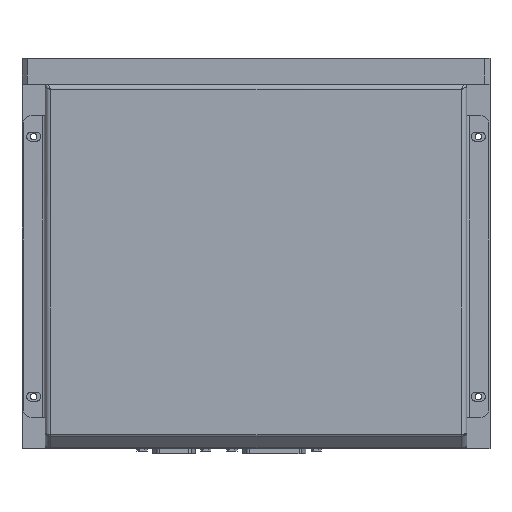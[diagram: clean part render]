
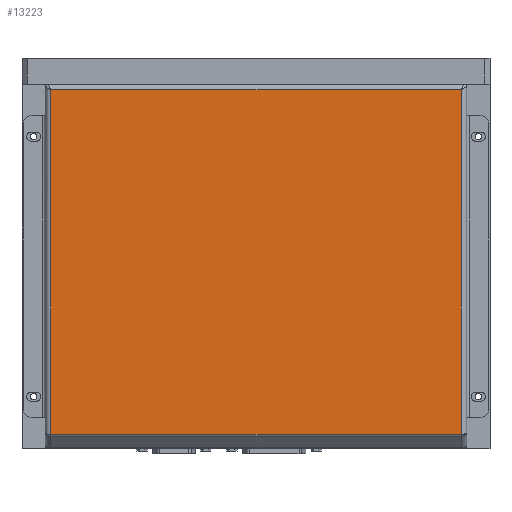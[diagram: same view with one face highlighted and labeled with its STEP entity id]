
A CAD part, top view. The second image highlights one B-rep face of the part: STEP entity #13223.
In plain terms, the highlighted planar face has unit normal (0, 0, 1) as drawn and (0, 1, 0) by its records, which use the part's own axes.
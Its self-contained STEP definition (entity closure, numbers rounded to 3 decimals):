
#437 = LINE ( 'NONE', #36628, #6443 ) ;
#1823 = VERTEX_POINT ( 'NONE', #7459 ) ;
#3011 = VECTOR ( 'NONE', #49652, 1000. ) ;
#4052 = LINE ( 'NONE', #50740, #53688 ) ;
#4810 = ORIENTED_EDGE ( 'NONE', *, *, #46773, .F. ) ;
#5558 = AXIS2_PLACEMENT_3D ( 'NONE', #59031, #35461, #15971 ) ;
#6134 = CARTESIAN_POINT ( 'NONE',  ( 79., 0., 0. ) ) ;
#6443 = VECTOR ( 'NONE', #7826, 1000. ) ;
#7459 = CARTESIAN_POINT ( 'NONE',  ( -79., 0., 64.586 ) ) ;
#7621 = ORIENTED_EDGE ( 'NONE', *, *, #61152, .F. ) ;
#7826 = DIRECTION ( 'NONE',  ( -1., 0., 0. ) ) ;
#9764 = LINE ( 'NONE', #6134, #3011 ) ;
#12061 = CARTESIAN_POINT ( 'NONE',  ( -79., 0., -68. ) ) ;
#13223 = ADVANCED_FACE ( 'NONE', ( #30301 ), #20371, .F. ) ;
#15971 = DIRECTION ( 'NONE',  ( 0., 0., -1. ) ) ;
#15990 = DIRECTION ( 'NONE',  ( 0., 0., -1. ) ) ;
#17228 = VECTOR ( 'NONE', #15990, 1000. ) ;
#20371 = PLANE ( 'NONE',  #5558 ) ;
#21924 = EDGE_LOOP ( 'NONE', ( #4810, #47335, #7621, #37055 ) ) ;
#26063 = VERTEX_POINT ( 'NONE', #12061 ) ;
#26109 = CARTESIAN_POINT ( 'NONE',  ( 79., 0., -68. ) ) ;
#26252 = LINE ( 'NONE', #59659, #17228 ) ;
#28980 = VERTEX_POINT ( 'NONE', #36731 ) ;
#30301 = FACE_OUTER_BOUND ( 'NONE', #21924, .T. ) ;
#31391 = DIRECTION ( 'NONE',  ( 1., 0., 0. ) ) ;
#35461 = DIRECTION ( 'NONE',  ( 0., -1., 0. ) ) ;
#36628 = CARTESIAN_POINT ( 'NONE',  ( 0., 0., 64.586 ) ) ;
#36731 = CARTESIAN_POINT ( 'NONE',  ( 79., 0., 64.586 ) ) ;
#37055 = ORIENTED_EDGE ( 'NONE', *, *, #57978, .F. ) ;
#46773 = EDGE_CURVE ( 'NONE', #28980, #1823, #437, .T. ) ;
#47335 = ORIENTED_EDGE ( 'NONE', *, *, #57297, .F. ) ;
#49652 = DIRECTION ( 'NONE',  ( 0., 0., 1. ) ) ;
#50740 = CARTESIAN_POINT ( 'NONE',  ( 0., 0., -68. ) ) ;
#53688 = VECTOR ( 'NONE', #31391, 1000. ) ;
#57297 = EDGE_CURVE ( 'NONE', #59844, #28980, #9764, .T. ) ;
#57978 = EDGE_CURVE ( 'NONE', #1823, #26063, #26252, .T. ) ;
#59031 = CARTESIAN_POINT ( 'NONE',  ( 0., 0., 0. ) ) ;
#59659 = CARTESIAN_POINT ( 'NONE',  ( -79., 0., 0. ) ) ;
#59844 = VERTEX_POINT ( 'NONE', #26109 ) ;
#61152 = EDGE_CURVE ( 'NONE', #26063, #59844, #4052, .T. ) ;
